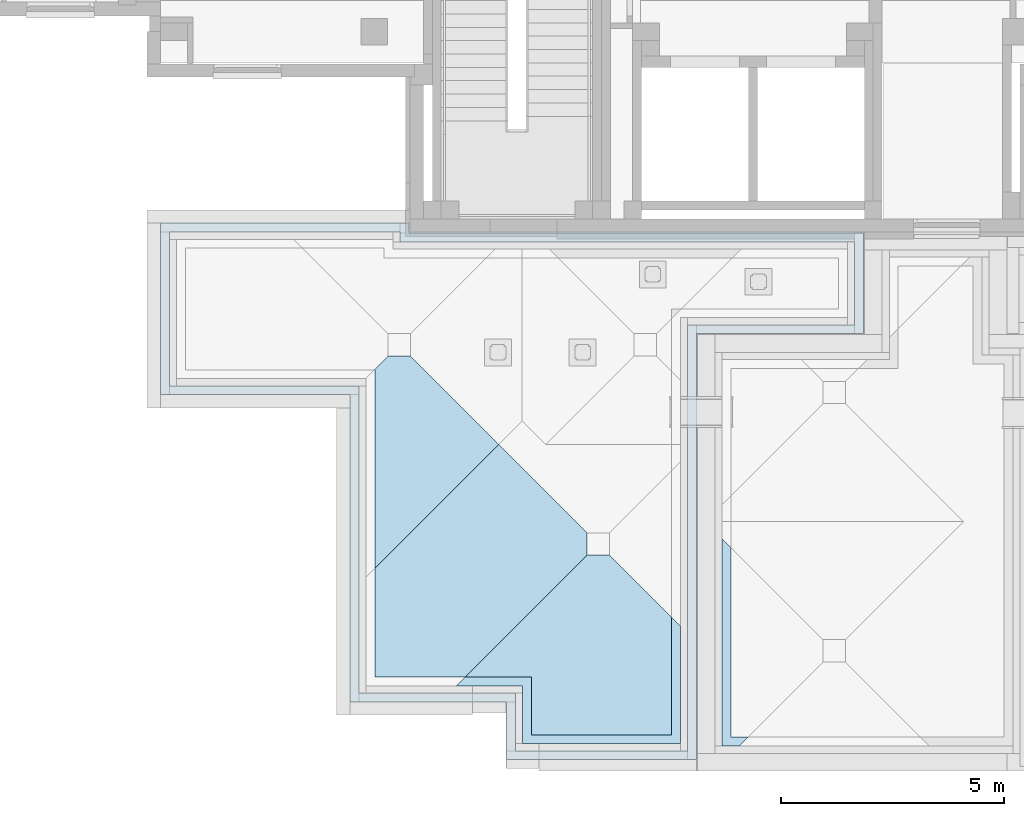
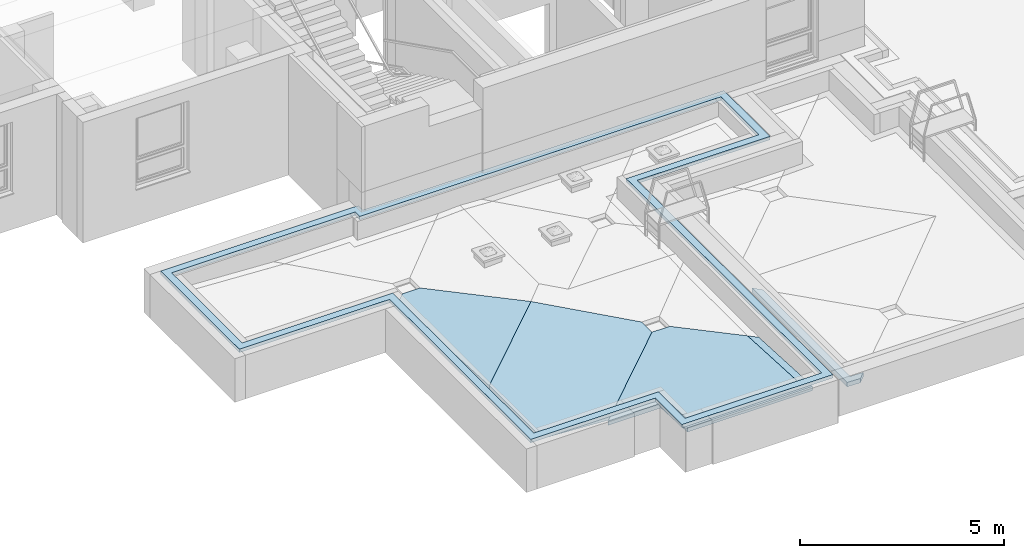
# One storey, part 3 of 50: 6 slabs, 3 elements without a shape of their own.
"""IFC4 building model written with IfcOpenShell, lengths in metres."""

from ifc_helpers import new_model, entity, si_unit, converted_unit, derived_unit, frame, origin, origin_with_axes, place, context, subcontext, project, spatial, polyline, outline, extrude, material, layer, layer_set, layer_usage, element, aggregate, save


model = new_model("IFC4")

# Units and contexts
model_context = context("Model", 3, precision=1e-05, world=origin())
body_context = subcontext(model_context, "Body", "Model", "MODEL_VIEW")
ifc_project = project(units=[si_unit("LENGTHUNIT", "METRE"), si_unit("AREAUNIT", "SQUARE_METRE"), si_unit("VOLUMEUNIT", "CUBIC_METRE"), si_unit("MASSUNIT", "GRAM", prefix="KILO"), converted_unit("PLANEANGLEUNIT", "DEGREE", entity("IfcPlaneAngleMeasure", 0.0174532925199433), si_unit("PLANEANGLEUNIT", "RADIAN"), dimensions=[0, 0, 0, 0, 0, 0, 0]), derived_unit("THERMALTRANSMITTANCEUNIT", [(si_unit("POWERUNIT", "WATT"), 1), (si_unit("THERMODYNAMICTEMPERATUREUNIT", "KELVIN"), -1), (si_unit("LENGTHUNIT", "METRE"), -2)]), derived_unit("VOLUMETRICFLOWRATEUNIT", [(si_unit("LENGTHUNIT", "METRE"), 3), (converted_unit("TIMEUNIT", "hour", entity("IfcTimeMeasure", 3600.0), si_unit("TIMEUNIT", "SECOND"), dimensions=[0, 0, 1, 0, 0, 0, 0]), -1), (si_unit("LENGTHUNIT", "METRE"), -1)])], contexts=[model_context])

# Site, building, storey
site_placement = place(None, origin())
site = spatial("IfcSite", under=ifc_project, at=site_placement, Name="3. ASŘ", CompositionType="ELEMENT")
building_placement = place(site_placement, origin())
building = spatial("IfcBuilding", under=site, at=building_placement, Name="Pavilon C", CompositionType="ELEMENT")
storey_placement = place(building_placement, frame((0.0, 0.0, 3.6)))
storey = spatial("IfcBuildingStorey", under=building, at=storey_placement, Name="Půdorys 2.NP", CompositionType="ELEMENT", Elevation=3.6)

# Roof, slab
roof_1_placement = place(storey_placement, frame((0.0, 0.0, -3.6)))
roof_1 = element("IfcRoof", 1, at=roof_1_placement, inside=storey, PredefinedType="NOTDEFINED")
ifc_material_1 = material(Name="ASFALTOVÁ HYDROIZOLACE")
ifc_layer_1 = layer(ifc_material_1, 0.01)
ifc_material_2 = material(Name="II.S2 - KAČÍREK")
ifc_layer_2 = layer(ifc_material_2, 0.12)
ifc_layer_set_1 = layer_set([ifc_layer_1, ifc_layer_2])
ifc_layer_usage_1 = layer_usage(ifc_layer_set_1, "AXIS3", "POSITIVE", 0.0)
slab_1_placement = place(roof_1_placement, frame((31.390171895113, -15.985, 3.83304686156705)))
slab_1 = element("IfcSlab", 2, at=slab_1_placement, material=ifc_layer_usage_1, PredefinedType="ROOF", context=body_context, shape_type="SweptSolid", body=[
    extrude(outline(polyline([(-2.42786248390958, 0.352043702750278), (-2.62786248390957, 0.151769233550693), (-1.1380343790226, 0.151769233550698), (-1.1380343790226, -1.15001481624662), (2.40196562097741, -1.1500148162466), (2.4019656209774, 1.49580499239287), (2.2019656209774, 1.69607946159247), (2.2019656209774, -0.949740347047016), (-0.938034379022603, -0.949740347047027), (-0.938034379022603, 0.352043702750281), (-2.42786248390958, 0.352043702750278)])), frame((2.62786248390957, 1.14843876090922, 0.0887659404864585), z_axis=(1.7663394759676e-16, 0.0523359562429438, 0.998629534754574), x_axis=(1.0, -3.37500182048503e-15, 0.0)), (0.0, -0.0523359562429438, 0.998629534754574), 0.130178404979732),
])
aggregate(roof_1, [slab_1])

# Roof, slabs
roof_2_placement = place(storey_placement, frame((0.0, 0.0, -3.6)))
roof_2 = element("IfcRoof", 3, at=roof_2_placement, inside=storey, PredefinedType="NOTDEFINED")
ifc_material_3 = material(Name="ASFALTOVÁ HYDROIZOLACE")
ifc_layer_3 = layer(ifc_material_3, 0.01)
ifc_material_4 = material(Name="II.S1 - SOUVRSTVÍ ZELENÉ STŘECHY")
ifc_layer_4 = layer(ifc_material_4, 0.12)
ifc_layer_set_2 = layer_set([ifc_layer_3, ifc_layer_4])
ifc_layer_usage_2 = layer_usage(ifc_layer_set_2, "AXIS3", "POSITIVE", 0.0)
slab_2_placement = place(roof_2_placement, frame((31.5901718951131, -15.785, 3.76)))
slab_2 = element("IfcSlab", 4, at=slab_2_placement, material=ifc_layer_usage_2, PredefinedType="ROOF", context=body_context, shape_type="SweptSolid", body=[
    extrude(outline(polyline([(2.02820891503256, 0.741178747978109), (0.63439176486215, 2.13690869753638), (0.134391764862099, 2.1369086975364), (-2.60161918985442, -0.602857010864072), (-1.11179108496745, -0.602857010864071), (-1.11179108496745, -1.90464106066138), (2.02820891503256, -1.90464106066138), (2.02820891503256, 0.741178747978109)])), frame((2.60161918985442, 1.90203081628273, 0.111837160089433), z_axis=(2.2316172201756e-17, 0.0523359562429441, 0.998629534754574), x_axis=(1.0, -4.26402301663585e-16, 0.0)), (0.0, -0.0523359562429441, 0.998629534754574), 0.130178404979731),
])
ifc_material_5 = material(Name="ASFALTOVÁ HYDROIZOLACE")
ifc_layer_5 = layer(ifc_material_5, 0.01)
ifc_material_6 = material(Name="II.S1 - SOUVRSTVÍ ZELENÉ STŘECHY")
ifc_layer_6 = layer(ifc_material_6, 0.12)
ifc_layer_set_3 = layer_set([ifc_layer_5, ifc_layer_6])
ifc_layer_usage_3 = layer_usage(ifc_layer_set_3, "AXIS3", "POSITIVE", 0.0)
slab_3_placement = place(roof_2_placement, frame((29.56, -14.485, 3.75999999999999)))
slab_3 = element("IfcSlab", 5, at=slab_3_placement, material=ifc_layer_usage_3, PredefinedType="ROOF", context=body_context, shape_type="SweptSolid", body=[
    extrude(outline(polyline([(2.27189031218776, -0.361027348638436), (-0.464120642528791, 2.37873835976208), (-0.964120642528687, 2.37873835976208), (-2.94861427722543, 0.391521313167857), (-0.166925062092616, -2.3939853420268), (2.27189031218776, -2.39398534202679), (2.27189031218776, -0.361027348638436)])), frame((2.39070446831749, 2.27189031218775, 0.124493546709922), z_axis=(0.0523359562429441, -2.1224618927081e-16, 0.998629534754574), x_axis=(-4.05545641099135e-15, -1.0, 0.0)), (0.0, -0.0523359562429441, 0.998629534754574), 0.130178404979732),
])
ifc_material_7 = material(Name="ASFALTOVÁ HYDROIZOLACE")
ifc_layer_7 = layer(ifc_material_7, 0.01)
ifc_material_8 = material(Name="II.S1 - SOUVRSTVÍ ZELENÉ STŘECHY")
ifc_layer_8 = layer(ifc_material_8, 0.12)
ifc_layer_set_4 = layer_set([ifc_layer_7, ifc_layer_8])
ifc_layer_usage_4 = layer_usage(ifc_layer_set_4, "AXIS3", "POSITIVE", 0.0)
slab_4_placement = place(roof_2_placement, frame((29.5471973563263, -12.0461846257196, 3.76)))
slab_4 = element("IfcSlab", 6, at=slab_4_placement, material=ifc_layer_usage_4, PredefinedType="ROOF", context=body_context, shape_type="SweptSolid", body=[
    extrude(outline(polyline([(-0.643879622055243, -3.54259236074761), (2.13780959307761, -0.757085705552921), (0.153315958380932, 1.23013134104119), (-0.346684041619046, 1.2301313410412), (-0.656682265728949, 0.919707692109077), (-0.643879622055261, 0.919707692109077), (-0.643879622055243, -3.54259236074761)])), frame((0.656682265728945, 3.53773736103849, 0.0643801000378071), z_axis=(2.2480513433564e-16, 0.0523359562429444, 0.998629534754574), x_axis=(1.0, -4.29542422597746e-15, 0.0)), (0.0, -0.0523359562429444, 0.998629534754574), 0.130178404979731),
])
aggregate(roof_2, [slab_2, slab_3, slab_4])

# Roof, slab
roof_3_placement = place(storey_placement, frame((0.0, 0.0, -3.6)))
roof_3 = element("IfcRoof", 7, at=roof_3_placement, inside=storey, PredefinedType="NOTDEFINED")
ifc_material_9 = material(Name="ASFALTOVÁ HYDROIZOLACE")
ifc_layer_9 = layer(ifc_material_9, 0.01)
ifc_material_10 = material(Name="KAČÍREK")
ifc_layer_10 = layer(ifc_material_10, 0.12)
ifc_layer_set_5 = layer_set([ifc_layer_9, ifc_layer_10])
ifc_layer_usage_5 = layer_usage(ifc_layer_set_5, "AXIS3", "POSITIVE", 0.0)
slab_5_placement = place(roof_3_placement, frame((37.36, -16.04, 3.78070000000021)))
slab_5 = element("IfcSlab", 8, at=slab_5_placement, material=ifc_layer_usage_5, PredefinedType="ROOF", context=body_context, shape_type="SweptSolid", body=[
    extrude(outline(polyline([(-2.87000000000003, -0.025011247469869), (-3.07000000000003, -0.225101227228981), (1.58500000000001, -0.225101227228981), (1.58500000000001, 0.150067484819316), (1.38500000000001, 0.350157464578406), (1.38500000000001, -0.025011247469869), (-2.87000000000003, -0.025011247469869)])), frame((0.224999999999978, 1.58500000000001, 0.0105000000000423), z_axis=(0.0299865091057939, 1.21363726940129e-17, 0.999550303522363), x_axis=(4.04727761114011e-16, -1.0, 0.0)), (0.0, -0.0299865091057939, 0.999550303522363), 0.13005848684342),
])
aggregate(roof_3, [slab_5])

# Slab
ifc_material_11 = material(Name="MINERÁLNÍ VATA")
slab_6_placement = place(storey_placement, frame((24.75, -16.345, 0.85)))
element("IfcSlab", 9, at=slab_6_placement, inside=storey, material=ifc_material_11, PredefinedType="FLOOR", context=body_context, shape_type="SweptSolid", body=[
    extrude(outline(polyline([(5.58, 11.825), (5.58, 12.045), (0.0, 12.045), (0.0, 8.19500000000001), (4.25, 8.19500000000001), (4.25, 1.30000000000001), (7.77, 1.30000000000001), (7.77, 0.0), (12.03, 0.0), (12.03, 9.56500000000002), (15.78, 9.56500000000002), (15.78, 11.825), (5.58, 11.825)]), holes=[polyline([(0.2, 8.39500000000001), (0.2, 11.845), (5.38, 11.845), (5.38, 11.625), (15.58, 11.625), (15.58, 9.76500000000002), (11.83, 9.76500000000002), (11.83, 0.2), (7.97, 0.2), (7.97, 1.50000000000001), (4.45, 1.50000000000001), (4.45, 8.39500000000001), (0.2, 8.39500000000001)])]), origin_with_axes(), (0.0, 0.0, 1.0), 0.1),
])

save(model, "model.ifc")
